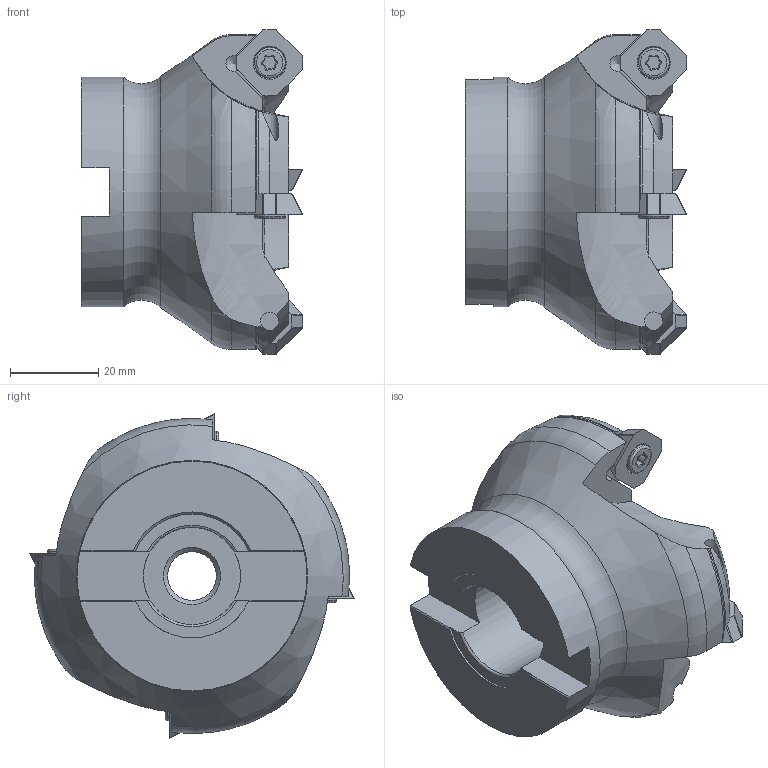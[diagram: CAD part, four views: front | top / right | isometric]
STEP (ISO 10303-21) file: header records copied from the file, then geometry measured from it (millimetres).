
FILE_DESCRIPTION(/* description */ (''),/* implementation_level */ '2;1');
FILE_NAME(/* name */ 'KM-12-63-22-4T-AL.stp',/* time_stamp */ '2024-07-04T15:01:42+03:00',/* author */ ('KanaanMD'),/* organization */ (''),/* preprocessor_version */ 'ST-DEVELOPER v19.2',/* originating_system */ 'Autodesk Inventor 2024',/* authorisation */ '');
FILE_SCHEMA (('AUTOMOTIVE_DESIGN { 1 0 10303 214 3 1 1 }'));
Length unit declared in the file: millimetre
Products named in the file (4): KM-12-63-22-4T-AL; KM-12-63-22-4T-AL_1; SC; болт
Assembly tree (9 placements, depth 2):
  KM-12-63-22-4T-AL
    KM-12-63-22-4T-AL_1
    SC  x4
    болт  x4
Bounding box: 50.14 x 73.47 x 73.47 mm (x, y, z)
Volume: 93964.6 mm3; surface area: 20555 mm2
Topology: 9 solids, 9 shells, 302 faces, 788 edges, 501 vertices
Faces by surface type: cylinder 109, plane 89, cone 77, torus 23, bspline 4
Full cylindrical faces by diameter (mm): 4.134 x4, 5 x4, 5.5 x4, 7 x4, 11 x1, 17 x1, 22 x1, 52 x1
Entity records: 5622 total; most frequent: CARTESIAN_POINT 1653, ORIENTED_EDGE 830, DIRECTION 791, EDGE_CURVE 415, AXIS2_PLACEMENT_3D 318, VERTEX_POINT 270, EDGE_LOOP 159, LINE 155
